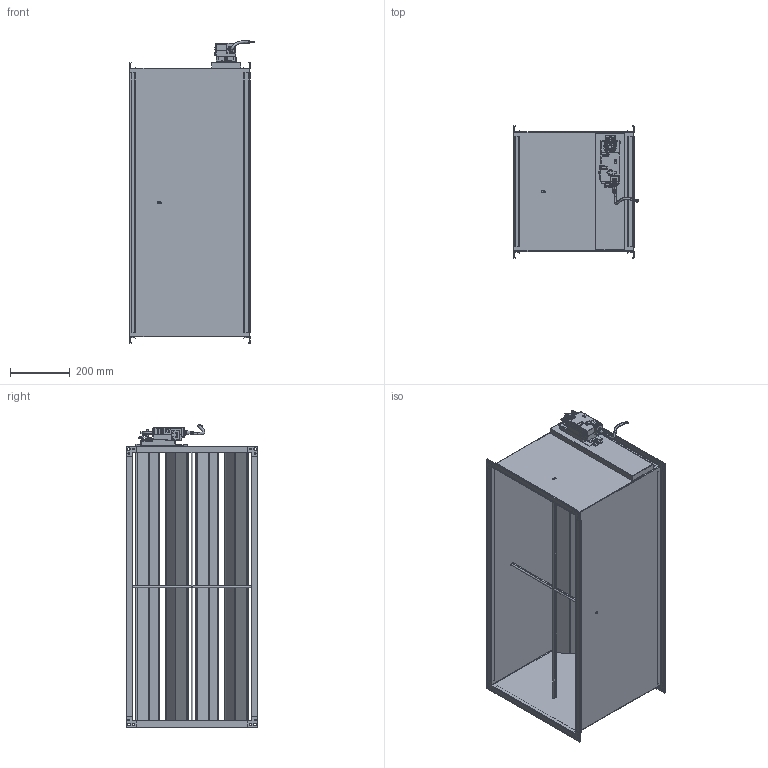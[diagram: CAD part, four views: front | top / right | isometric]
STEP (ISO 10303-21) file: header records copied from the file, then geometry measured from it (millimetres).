
FILE_DESCRIPTION (( 'STEP AP214' ), '1' );
FILE_NAME ('VAV-S900400.STEP', '2025-05-08T12:22:59', ( '' ), ( '' ), 'SwSTEP 2.0', 'SolidWorks 2025', '' );
FILE_SCHEMA (( 'AUTOMOTIVE_DESIGN' ));
Length unit declared in the file: millimetre
Products named in the file (1): VAV-S900400
Bounding box: 420.08 x 441 x 1013.68 mm (x, y, z)
Surface area: 3992536.6 mm2 (no closed solid volume)
Topology: 0 solids, 48 shells, 2074 faces, 5411 edges, 3443 vertices
Faces by surface type: plane 1531, cylinder 490, bspline 24, sphere 18, cone 10, torus 1
Full cylindrical faces by diameter (mm): 1 x4, 6 x17, 8 x1, 9 x8, 11 x1, 20 x1, 21 x2
Entity records: 91262 total; most frequent: CARTESIAN_POINT 41484, ORIENTED_EDGE 10609, DIRECTION 6784, EDGE_CURVE 5328, VERTEX_POINT 3417, B_SPLINE_CURVE_WITH_KNOTS 3170, AXIS2_PLACEMENT_3D 2587, EDGE_LOOP 2278
